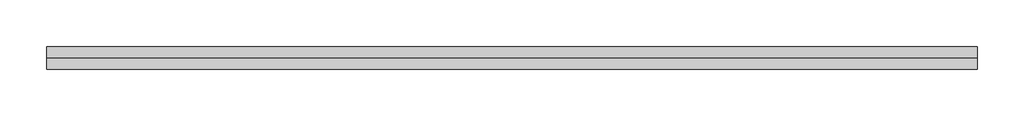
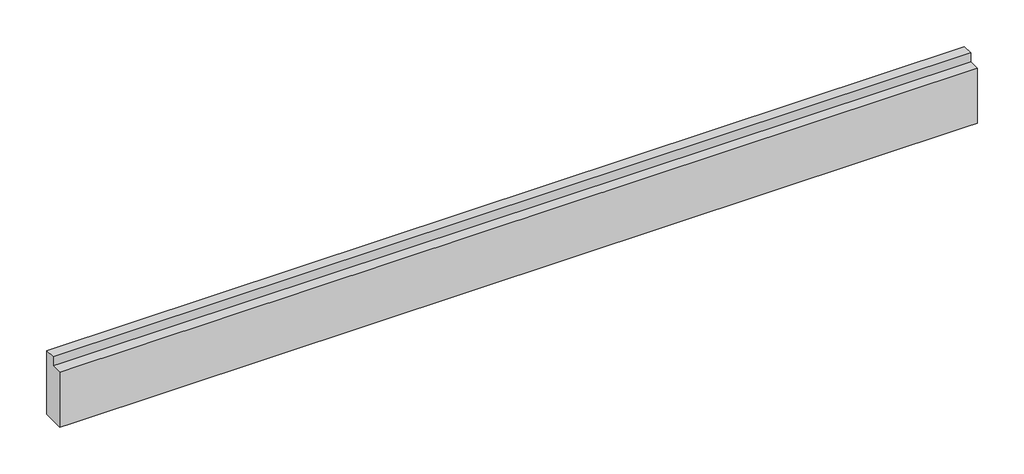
# One storey: 1 beam.
"""IFC4 building model written with IfcOpenShell, lengths in millimetres."""

from ifc_helpers import new_model, si_unit, origin, place, context, project, spatial, faceted_brep, element, save

model = new_model("IFC4")

# Units and contexts
model_context = context("Model", 3, world=origin())
ifc_project = project(units=[si_unit("LENGTHUNIT", "METRE", prefix="MILLI")], contexts=[model_context])

# Site, building, storey
site = spatial("IfcSite", under=ifc_project)
building = spatial("IfcBuilding", under=site)
storey = spatial("IfcBuildingStorey", under=building, Name="T.O.Columns", Elevation=6400.8)

# Beam
placement = place(None, origin())
element("IfcBeam", 1, ObjectType="Concrete-Rectangular Beam : 12 x 24", at=placement, inside=storey, context=model_context, shape_type="Brep", body=[
    faceted_brep([(-10195.4983314, 11129.3050815, 6400.8), (-10195.4983314, 11434.1050815, 6400.8), (-10195.4983314, 11434.1050815, 7315.2), (-10195.4983314, 11281.7050815, 7315.2), (-10195.4983314, 11281.7050815, 7188.2), (-10195.4983314, 11129.3050815, 7188.2), (-22637.1920692, 11434.1050815, 7315.2), (-22637.1920692, 11434.1050815, 6400.8), (-22637.1920692, 11129.3050815, 6400.8), (-22637.1920692, 11129.3050815, 7188.2), (-22637.1920692, 11281.7050815, 7188.2), (-22637.1920692, 11281.7050815, 7315.2), (-22484.7920692, 11129.3050815, 6400.8), (-10347.8983314, 11129.3050815, 6400.8), (-22484.7920692, 11434.1050815, 6400.8), (-10347.8983314, 11434.1050815, 6400.8)], [[[0, 1, 2, 3, 4, 5]], [[6, 7, 8, 9, 10, 11]], [[2, 6, 11, 3]], [[8, 12, 13, 0, 5, 9]], [[1, 0, 13, 12, 8, 7, 14, 15]], [[2, 1, 15, 14, 7, 6]], [[4, 10, 9, 5]], [[10, 4, 3, 11]]]),
])

save(model, "model.ifc")
